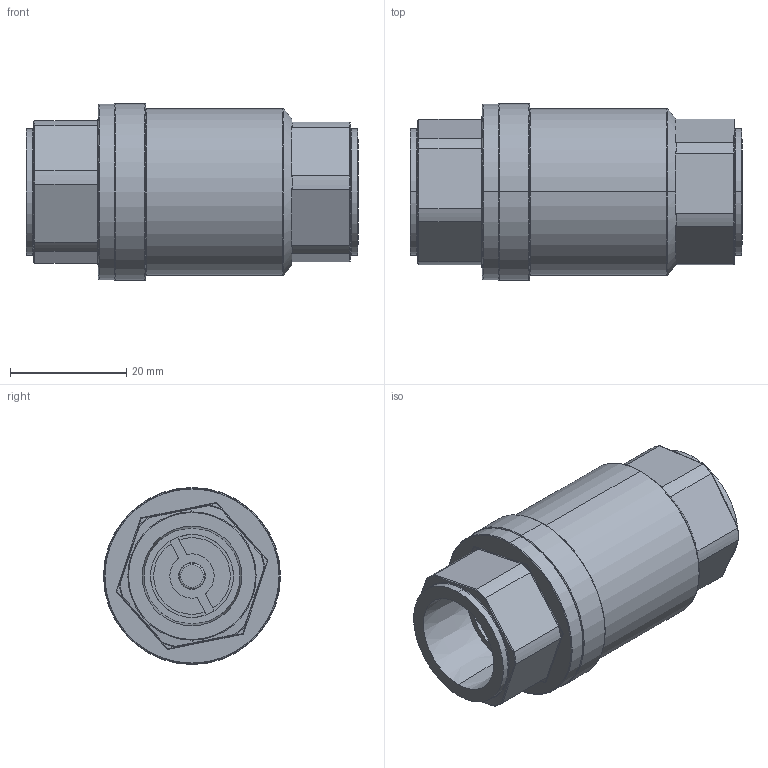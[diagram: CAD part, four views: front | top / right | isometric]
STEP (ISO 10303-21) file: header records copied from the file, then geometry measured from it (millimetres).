
FILE_DESCRIPTION (( 'STEP AP203' ), '1' );
FILE_NAME ('SCI-3.STEP', '2019-05-23T14:17:08', ( '' ), ( '' ), 'SwSTEP 2.0', 'SolidWorks 2017', '' );
FILE_SCHEMA (( 'CONFIG_CONTROL_DESIGN' ));
Length unit declared in the file: inch
Products named in the file (10): SCI-3-SPRING; SCI-3; SCI-3-BODY; SCI-3-POPPET; SCI-3-SEAT
Assembly tree (5 placements, depth 2):
  SCI-3
    SCI-3-BODY
    SCI-3-POPPET
    SCI-3-SEAT
    SCI-3-SPRING
  SCI-3-BODY
  SCI-3-POPPET
  SCI-3-SEAT
  SCI-3
    SCI-3-SPRING
Bounding box: 57.15 x 30.48 x 30.48 mm (x, y, z)
Volume: 15489.2 mm3; surface area: 11631 mm2
Topology: 4 solids, 4 shells, 181 faces, 464 edges, 298 vertices
Faces by surface type: cylinder 67, plane 46, torus 36, cone 18, bspline 14
Entity records: 9259 total; most frequent: CARTESIAN_POINT 3960, DIRECTION 933, ORIENTED_EDGE 926, EDGE_CURVE 463, AXIS2_PLACEMENT_3D 388, VERTEX_POINT 296, CIRCLE 210, EDGE_LOOP 199
